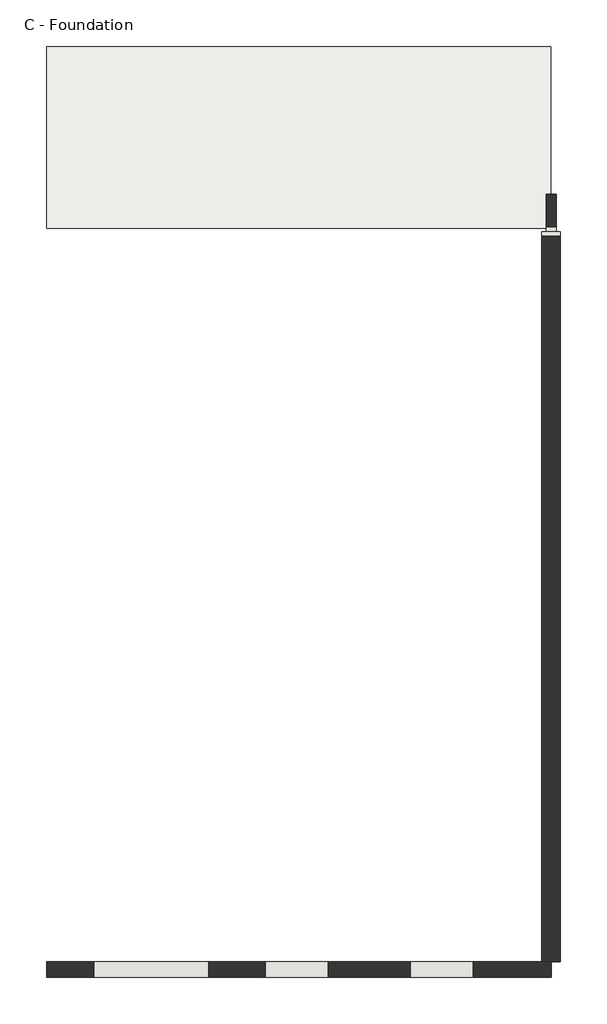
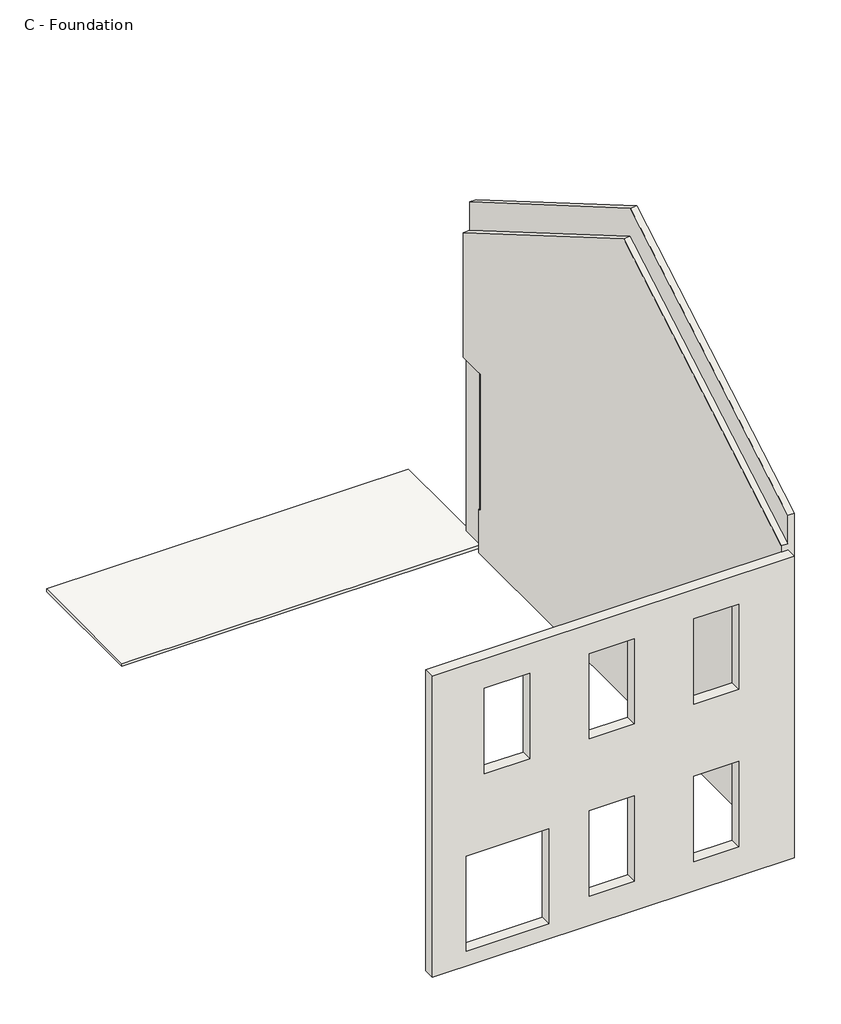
# One storey: 3 walls, 1 slab.
"""IFC4 building model written with IfcOpenShell, lengths in millimetres."""

from ifc_helpers import new_model, si_unit, frame, origin, place, context, project, spatial, polyline, outline, extrude, faceted_brep, element, save

model = new_model("IFC4")

# Units and contexts
model_context = context("Model", 3, world=origin())
ifc_project = project(units=[si_unit("LENGTHUNIT", "METRE", prefix="MILLI")], contexts=[model_context])

# Site, building, storey
site = spatial("IfcSite", under=ifc_project)
building = spatial("IfcBuilding", under=site)
storey = spatial("IfcBuildingStorey", under=building, Name="C - Foundation", Elevation=895.35)

# Slab
placement = place(None, origin())
element("IfcSlab", 1, ObjectType="Deck", at=placement, inside=storey, context=model_context, shape_type="SweptSolid", body=[
    extrude(outline(polyline([(10590.6870514, 6190.0210538), (10590.6870514, 3545.2460538), (3256.4370514, 3545.2460538), (3256.4370514, 6190.0210538), (10590.6870514, 6190.0210538)])), frame((0.0, 0.0, 952.5), z_axis=(0.0, 0.0, 1.0), x_axis=(1.0, 0.0, 0.0)), (0.0, 0.0, 1.0), 57.15),
])

# Walls
element("IfcWall", 2, ObjectType="Demising Wall", at=placement, inside=storey, context=model_context, shape_type="Brep", body=[
    faceted_brep([(10730.3870514, -7049.7289462, 895.35), (10730.3870514, 151.1710538, 895.35), (10730.3870514, 265.4710538, 895.35), (10730.3870514, 3497.6210538, 895.35), (10730.3870514, 3497.6210538, 1828.8), (10730.3870514, 3430.9460538, 1828.8), (10730.3870514, 3430.9460538, 4756.15), (10730.3870514, 3564.2960538, 4756.15), (10730.3870514, 4040.5460538, 4756.15), (10730.3870514, 4040.5460538, 5200.65), (10730.3870514, 4040.5460538, 8034.3375), (10730.3870514, -1590.3164462, 11319.0072917), (10730.3870514, -7122.7539462, 8091.7520833), (10730.3870514, -7122.7539462, 1504.95), (10730.3870514, -7049.7289462, 1504.95), (10463.6870514, 3497.6210538, 895.35), (10463.6870514, -7122.7539462, 895.35), (10463.6870514, -7122.7539462, 1504.95), (10463.6870514, -7122.7539462, 7482.1520833), (10463.6870514, -1590.3164462, 10709.4072917), (10463.6870514, 4040.5460538, 7424.7375), (10463.6870514, 4040.5460538, 4756.15), (10463.6870514, 3564.2960538, 4756.15), (10463.6870514, 3430.9460538, 4756.15), (10463.6870514, 3430.9460538, 1828.8), (10463.6870514, 3497.6210538, 1828.8), (10463.6870514, 3497.6210538, 1504.95), (10463.6870514, 3497.6210538, 1219.2), (10597.0370514, -7049.7289462, 1504.95), (10597.0370514, -7049.7289462, 895.35), (10597.0370514, -7122.7539462, 8091.7520833), (10597.0370514, -7122.7539462, 7956.55), (10597.0370514, -7122.7539462, 7482.1520833), (10597.0370514, -7122.7539462, 1504.95), (10670.0620514, 4040.5460538, 4756.15), (10524.0120514, 4040.5460538, 4756.15), (10597.0370514, 4040.5460538, 7424.7375), (10597.0370514, 4040.5460538, 7969.25), (10597.0370514, 4040.5460538, 8034.3375), (10597.0370514, -1590.3164462, 10709.4072917), (10597.0370514, -1590.3164462, 11319.0072917), (10597.0370514, -7122.7539462, 895.35), (10524.0120514, 3497.6210538, 895.35), (10543.0620514, 3497.6210538, 895.35), (10670.0620514, 3497.6210538, 895.35)], [[[0, 1, 2, 3, 4, 5, 6, 7, 8, 9, 10, 11, 12, 13, 14]], [[15, 16, 17, 18, 19, 20, 21, 22, 23, 24, 25, 26, 27]], [[0, 14, 28, 29]], [[13, 12, 30, 31, 32, 18, 17, 33]], [[10, 9, 8, 34, 35, 21, 20, 36, 37, 38]], [[19, 18, 32, 39]], [[12, 11, 40, 30]], [[11, 10, 38, 40]], [[3, 2, 1, 0, 29, 41, 16, 15, 42, 43, 44]], [[14, 13, 33, 28]], [[28, 33, 41, 29]], [[17, 16, 41, 33]], [[32, 31, 30, 40, 38, 37, 36, 39]], [[20, 19, 39, 36]], [[8, 7, 6, 23, 22, 21, 35, 34]], [[25, 4, 3, 44, 43, 42, 15, 27, 26]], [[5, 4, 25, 24]], [[5, 24, 23, 6]]]),
])
element("IfcWall", 3, ObjectType="Exterior - Brick on Wood Stud", at=placement, inside=storey, context=model_context, shape_type="Brep", body=[
    faceted_brep([(10597.0370514, -7122.7539462, 7346.95), (10597.0370514, -7122.7539462, 1504.95), (10597.0370514, -7122.7539462, 895.35), (10463.6870514, -7122.7539462, 895.35), (3329.4620514, -7122.7539462, 895.35), (3256.4370514, -7122.7539462, 895.35), (3256.4370514, -7122.7539462, 6737.35), (3256.4370514, -7122.7539462, 6872.5520833), (3256.4370514, -7122.7539462, 7346.95), (5618.6370514, -7122.7539462, 1219.2), (5618.6370514, -7122.7539462, 3251.2), (3942.2370514, -7122.7539462, 3251.2), (3942.2370514, -7122.7539462, 1219.2), (6432.8027665, -7122.7539462, 6724.65), (6432.8027665, -7122.7539462, 4895.85), (7347.2027665, -7122.7539462, 4895.85), (7347.2027665, -7122.7539462, 6724.65), (4314.173124, -7122.7539462, 6724.65), (4314.173124, -7122.7539462, 4895.85), (5228.573124, -7122.7539462, 4895.85), (5228.573124, -7122.7539462, 6724.65), (8551.432409, -7122.7539462, 6724.65), (8551.432409, -7122.7539462, 4895.85), (9465.832409, -7122.7539462, 4895.85), (9465.832409, -7122.7539462, 6724.65), (6437.3347302, -7122.7539462, 3352.8), (6437.3347302, -7122.7539462, 1524.0), (7351.7347302, -7122.7539462, 1524.0), (7351.7347302, -7122.7539462, 3352.8), (8551.432409, -7122.7539462, 3352.8), (8551.432409, -7122.7539462, 1524.0), (9465.832409, -7122.7539462, 1524.0), (9465.832409, -7122.7539462, 3352.8), (10597.0370514, -7354.5289462, 895.35), (10597.0370514, -7354.5289462, 1504.95), (10597.0370514, -7354.5289462, 7346.95), (3256.4370514, -7354.5289462, 7346.95), (3256.4370514, -7354.5289462, 6737.35), (3256.4370514, -7354.5289462, 895.35), (5618.6370514, -7354.5289462, 1219.2), (3942.2370514, -7354.5289462, 1219.2), (3942.2370514, -7354.5289462, 3251.2), (5618.6370514, -7354.5289462, 3251.2), (6432.8027665, -7354.5289462, 6724.65), (7347.2027665, -7354.5289462, 6724.65), (7347.2027665, -7354.5289462, 4895.85), (6432.8027665, -7354.5289462, 4895.85), (4314.173124, -7354.5289462, 6724.65), (5228.573124, -7354.5289462, 6724.65), (5228.573124, -7354.5289462, 4895.85), (4314.173124, -7354.5289462, 4895.85), (8551.432409, -7354.5289462, 6724.65), (9465.832409, -7354.5289462, 6724.65), (9465.832409, -7354.5289462, 4895.85), (8551.432409, -7354.5289462, 4895.85), (6437.3347302, -7354.5289462, 3352.8), (7351.7347302, -7354.5289462, 3352.8), (7351.7347302, -7354.5289462, 1524.0), (6437.3347302, -7354.5289462, 1524.0), (8551.432409, -7354.5289462, 3352.8), (9465.832409, -7354.5289462, 3352.8), (9465.832409, -7354.5289462, 1524.0), (8551.432409, -7354.5289462, 1524.0)], [[[0, 1, 2, 3, 4, 5, 6, 7, 8], [9, 10, 11, 12], [13, 14, 15, 16], [17, 18, 19, 20], [21, 22, 23, 24], [25, 26, 27, 28], [29, 30, 31, 32]], [[33, 34, 35, 36, 37, 38], [39, 40, 41, 42], [43, 44, 45, 46], [47, 48, 49, 50], [51, 52, 53, 54], [55, 56, 57, 58], [59, 60, 61, 62]], [[5, 4, 3, 2, 33, 38]], [[8, 7, 6, 5, 38, 37, 36]], [[0, 8, 36, 35]], [[0, 35, 34, 33, 2, 1]], [[40, 39, 9, 12]], [[41, 40, 12, 11]], [[42, 41, 11, 10]], [[39, 42, 10, 9]], [[14, 13, 43, 46]], [[15, 14, 46, 45]], [[16, 15, 45, 44]], [[13, 16, 44, 43]], [[18, 17, 47, 50]], [[19, 18, 50, 49]], [[20, 19, 49, 48]], [[17, 20, 48, 47]], [[22, 21, 51, 54]], [[23, 22, 54, 53]], [[24, 23, 53, 52]], [[21, 24, 52, 51]], [[26, 25, 55, 58]], [[27, 26, 58, 57]], [[28, 27, 57, 56]], [[25, 28, 56, 55]], [[30, 29, 59, 62]], [[31, 30, 62, 61]], [[32, 31, 61, 60]], [[29, 32, 60, 59]]]),
])
element("IfcWall", 4, ObjectType="Exterior - Wood Siding on Wood Stud 2", at=placement, inside=storey, context=model_context, shape_type="Brep", body=[
    faceted_brep([(10670.0620514, 3497.6210538, 895.35), (10670.0620514, 4040.5460538, 895.35), (10670.0620514, 4040.5460538, 4591.05), (10670.0620514, 4040.5460538, 4756.15), (10670.0620514, 3564.2960538, 4756.15), (10670.0620514, 3564.2960538, 1219.2), (10670.0620514, 3497.6210538, 1219.2), (10524.0120514, 3497.6210538, 895.35), (10524.0120514, 3497.6210538, 1219.2), (10524.0120514, 3545.2460538, 1219.2), (10524.0120514, 3564.2960538, 1219.2), (10524.0120514, 3564.2960538, 4756.15), (10524.0120514, 4040.5460538, 4756.15), (10524.0120514, 4040.5460538, 895.35), (10543.0620514, 3497.6210538, 895.35), (10543.0620514, 4040.5460538, 895.35), (10590.6870514, 3497.6210538, 1219.2), (10590.6870514, 3564.2960538, 1219.2)], [[[0, 1, 2, 3, 4, 5, 6]], [[7, 8, 9, 10, 11, 12, 13]], [[4, 3, 12, 11]], [[1, 0, 14, 15]], [[14, 7, 13, 15]], [[0, 6, 16, 8, 7, 14]], [[5, 17, 10, 9, 8, 16, 6]], [[4, 11, 10, 17, 5]], [[3, 2, 1, 15, 13, 12]]]),
])

save(model, "model.ifc")
